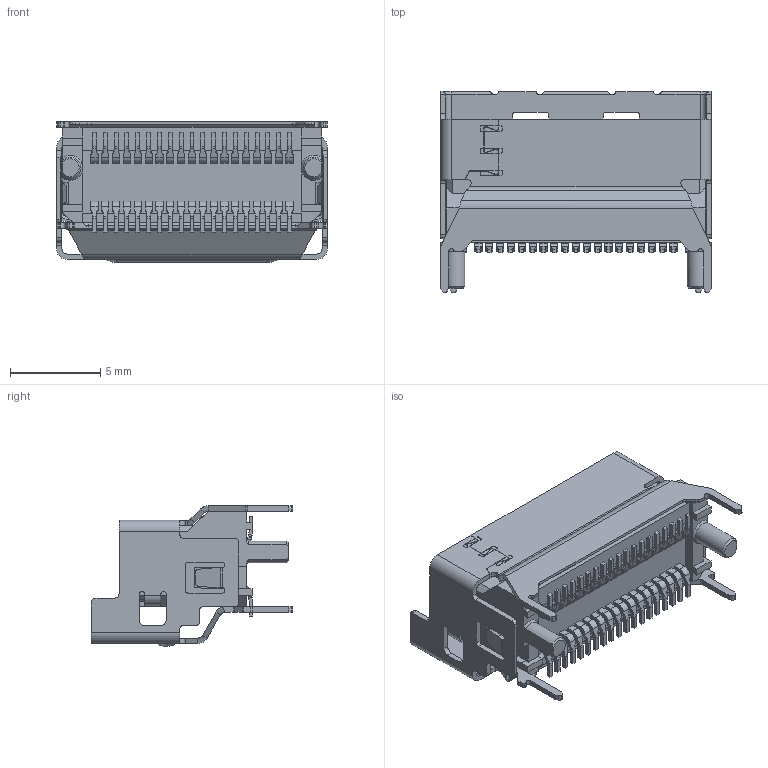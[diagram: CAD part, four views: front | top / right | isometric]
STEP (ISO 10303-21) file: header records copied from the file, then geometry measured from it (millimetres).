
FILE_DESCRIPTION((''),'2;1');
FILE_NAME('02V232X10H','2024-05-16T22:25:41',('ZL'),(''),'CREO PARAMETRIC BY PTC INC, 2020053','CREO PARAMETRIC BY PTC INC, 2020053','');
FILE_SCHEMA(('AUTOMOTIVE_DESIGN { 1 0 10303 214 1 1 1 1 }'));
Products named in the file (1): 02V232X10H
Bounding box: 15 x 11.15 x 7.77 mm (x, y, z)
Volume: 431.5 mm3; surface area: 1309.4 mm2
Topology: 1 solids, 1 shells, 2389 faces, 6848 edges, 4494 vertices
Faces by surface type: plane 1372, cylinder 913, torus 78, cone 14, bspline 12
Entity records: 80202 total; most frequent: CARTESIAN_POINT 15518, ORIENTED_EDGE 13696, DIRECTION 13264, EDGE_CURVE 6848, VECTOR 4761, LINE 4761, VERTEX_POINT 4494, AXIS2_PLACEMENT_3D 4250
